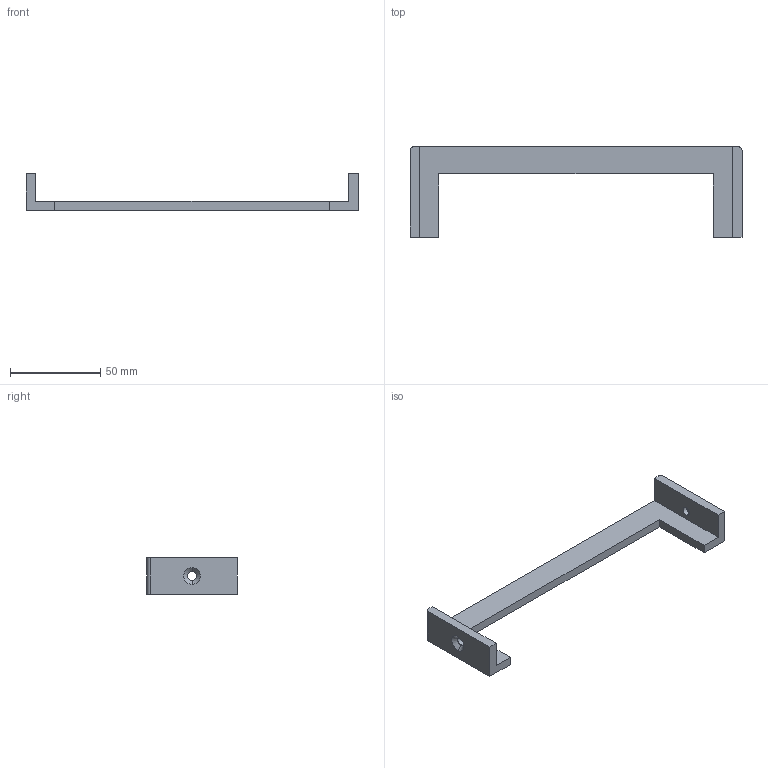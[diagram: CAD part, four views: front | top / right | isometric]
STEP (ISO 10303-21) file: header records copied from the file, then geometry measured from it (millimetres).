
FILE_DESCRIPTION (( 'STEP AP214' ), '1' );
FILE_NAME ('z2.STEP', '2026-01-21T22:12:32', ( '' ), ( '' ), 'SwSTEP 2.0', 'SolidWorks 2024', '' );
FILE_SCHEMA (( 'AUTOMOTIVE_DESIGN' ));
Length unit declared in the file: millimetre
Products named in the file (1): z2
Bounding box: 184 x 50 x 20 mm (x, y, z)
Volume: 26579.5 mm3; surface area: 13763.8 mm2
Topology: 1 solids, 1 shells, 24 faces, 62 edges, 40 vertices
Faces by surface type: plane 14, cylinder 6, cone 4
Entity records: 761 total; most frequent: DIRECTION 128, CARTESIAN_POINT 127, ORIENTED_EDGE 124, EDGE_CURVE 62, LINE 46, VECTOR 46, AXIS2_PLACEMENT_3D 41, VERTEX_POINT 40
